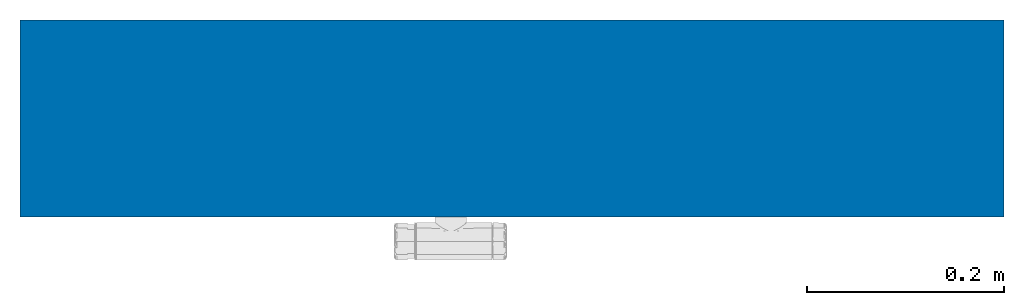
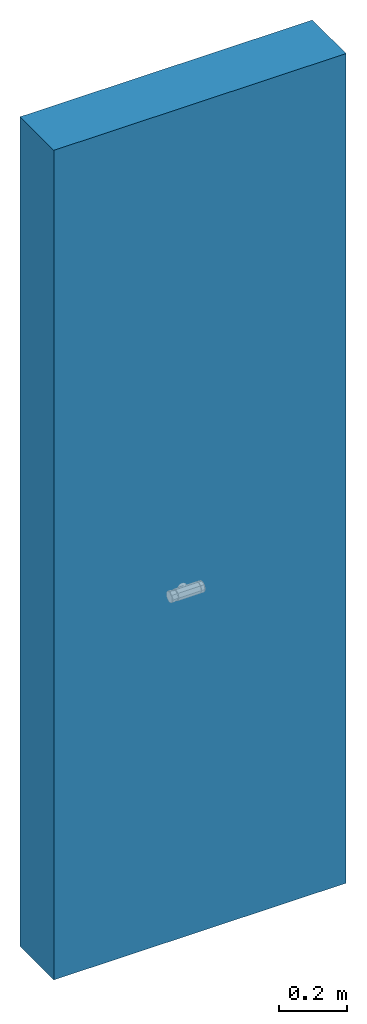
# One storey, incomplete: 1 wall.
"""IFC2X3 building model written with IfcOpenShell, lengths in millimetres."""

from ifc_helpers import new_model, entity, si_unit, converted_unit, frame, frame_2d, origin, place, context, project, spatial, rectangle, extrude, material, layer, layer_set, layer_usage, element, save


model = new_model("IFC2X3")

# Units and contexts
model_context = context("Model", 3, precision=1e-06, world=origin())
plan_context = context("Plan", 3, precision=1e-06, world=origin())
ifc_project = project(units=[si_unit("LENGTHUNIT", "METRE", prefix="MILLI"), si_unit("AREAUNIT", "SQUARE_METRE", prefix="MILLI"), si_unit("VOLUMEUNIT", "CUBIC_METRE", prefix="MILLI"), converted_unit("PLANEANGLEUNIT", "DEGREE", entity("IfcRatioMeasure", 0.01745329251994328), si_unit("PLANEANGLEUNIT", "RADIAN"), dimensions=[0, 0, 0, 0, 0, 0, 0]), si_unit("TIMEUNIT", "SECOND")], contexts=[model_context, plan_context])

# Site, building, storey
site_placement = place(None, origin())
site = spatial("IfcSite", under=ifc_project, at=site_placement, Name="Default", CompositionType="ELEMENT")
building_placement = place(site_placement, origin())
building = spatial("IfcBuilding", under=site, at=building_placement, CompositionType="ELEMENT")
storey_placement = place(building_placement, origin())
storey = spatial("IfcBuildingStorey", under=building, at=storey_placement, Name="Level 1", CompositionType="ELEMENT", Elevation=0.0)

# Wall
ifc_material = material(Name="Default Wall")
ifc_layer = layer(ifc_material, 200.0)
ifc_layer_set = layer_set([ifc_layer], Name="Basic Wall:Generic - 200mm")
ifc_layer_usage = layer_usage(ifc_layer_set, "AXIS2", "NEGATIVE", 100.0)
wall_placement = place(storey_placement, frame((-2759.154633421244, -927.6839373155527, 0.0)))
element("IfcWallStandardCase", 1, at=wall_placement, inside=storey, material=ifc_layer_usage, Name="Basic Wall:Generic - 200mm", ObjectType="Basic Wall:Generic - 200mm:398", context=model_context, shape_type="SweptSolid", body=[
    extrude(rectangle(XDim=999.9999999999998, YDim=200.0, at=frame_2d((500.0, 0.0), x_axis=(-1.0, 0.0))), origin(), (0.0, 0.0, 1.0), 3000.0),
])

save(model, "model.ifc")
